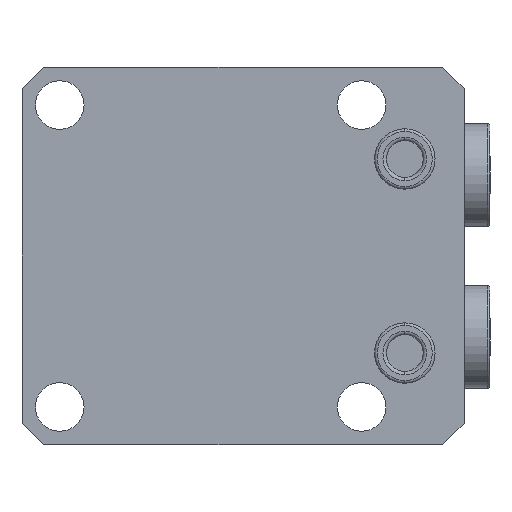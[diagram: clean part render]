
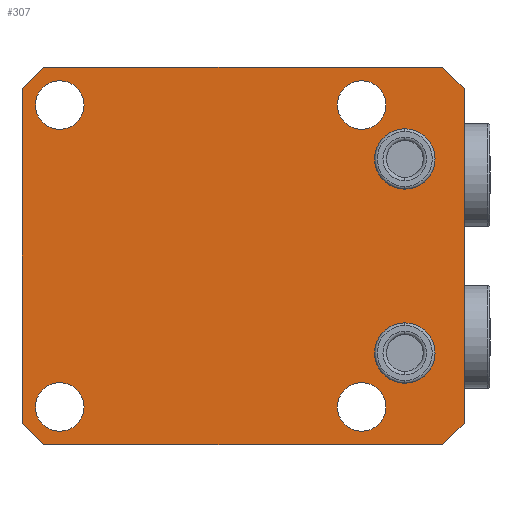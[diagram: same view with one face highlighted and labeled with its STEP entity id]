
A CAD part, front view. The second image highlights one B-rep face of the part: STEP entity #307.
In plain terms, the highlighted planar face has unit normal (0, -1, 0).
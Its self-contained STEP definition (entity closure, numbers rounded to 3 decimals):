
#176=PLANE('',#2243);
#226=FACE_BOUND('',#588,.T.);
#227=FACE_BOUND('',#589,.T.);
#228=FACE_BOUND('',#590,.T.);
#229=FACE_BOUND('',#591,.T.);
#230=FACE_BOUND('',#592,.T.);
#231=FACE_BOUND('',#593,.T.);
#232=FACE_BOUND('',#594,.T.);
#307=ADVANCED_FACE('',(#226,#227,#228,#229,#230,#231,#232),#176,.F.);
#588=EDGE_LOOP('',(#949,#950,#951,#952,#953,#954,#955,#956));
#589=EDGE_LOOP('',(#957,#958));
#590=EDGE_LOOP('',(#959,#960));
#591=EDGE_LOOP('',(#961,#962));
#592=EDGE_LOOP('',(#963,#964));
#593=EDGE_LOOP('',(#965,#966));
#594=EDGE_LOOP('',(#967,#968));
#752=CIRCLE('',#2214,4.5);
#754=CIRCLE('',#2217,4.5);
#756=CIRCLE('',#2220,4.5);
#758=CIRCLE('',#2223,4.5);
#762=CIRCLE('',#2229,5.6);
#764=CIRCLE('',#2233,5.6);
#766=CIRCLE('',#2236,5.6);
#767=CIRCLE('',#2238,4.5);
#768=CIRCLE('',#2239,4.5);
#769=CIRCLE('',#2240,4.5);
#770=CIRCLE('',#2241,4.5);
#771=CIRCLE('',#2242,5.6);
#949=ORIENTED_EDGE('',*,*,#1708,.F.);
#950=ORIENTED_EDGE('',*,*,#1709,.T.);
#951=ORIENTED_EDGE('',*,*,#1710,.F.);
#952=ORIENTED_EDGE('',*,*,#1711,.T.);
#953=ORIENTED_EDGE('',*,*,#1629,.F.);
#954=ORIENTED_EDGE('',*,*,#1712,.T.);
#955=ORIENTED_EDGE('',*,*,#1713,.F.);
#956=ORIENTED_EDGE('',*,*,#1714,.T.);
#957=ORIENTED_EDGE('',*,*,#1679,.F.);
#958=ORIENTED_EDGE('',*,*,#1715,.F.);
#959=ORIENTED_EDGE('',*,*,#1675,.F.);
#960=ORIENTED_EDGE('',*,*,#1716,.F.);
#961=ORIENTED_EDGE('',*,*,#1671,.F.);
#962=ORIENTED_EDGE('',*,*,#1717,.F.);
#963=ORIENTED_EDGE('',*,*,#1667,.F.);
#964=ORIENTED_EDGE('',*,*,#1718,.F.);
#965=ORIENTED_EDGE('',*,*,#1719,.F.);
#966=ORIENTED_EDGE('',*,*,#1689,.F.);
#967=ORIENTED_EDGE('',*,*,#1704,.T.);
#968=ORIENTED_EDGE('',*,*,#1707,.T.);
#1439=VERTEX_POINT('',#3103);
#1440=VERTEX_POINT('',#3105);
#1469=VERTEX_POINT('',#3182);
#1470=VERTEX_POINT('',#3183);
#1473=VERTEX_POINT('',#3191);
#1474=VERTEX_POINT('',#3192);
#1477=VERTEX_POINT('',#3200);
#1478=VERTEX_POINT('',#3201);
#1481=VERTEX_POINT('',#3209);
#1482=VERTEX_POINT('',#3210);
#1489=VERTEX_POINT('',#3233);
#1490=VERTEX_POINT('',#3235);
#1503=VERTEX_POINT('',#3296);
#1504=VERTEX_POINT('',#3298);
#1505=VERTEX_POINT('',#3305);
#1506=VERTEX_POINT('',#3306);
#1507=VERTEX_POINT('',#3308);
#1508=VERTEX_POINT('',#3310);
#1509=VERTEX_POINT('',#3313);
#1510=VERTEX_POINT('',#3315);
#1629=EDGE_CURVE('',#1439,#1440,#1911,.T.);
#1667=EDGE_CURVE('',#1469,#1470,#752,.T.);
#1671=EDGE_CURVE('',#1473,#1474,#754,.T.);
#1675=EDGE_CURVE('',#1477,#1478,#756,.T.);
#1679=EDGE_CURVE('',#1481,#1482,#758,.T.);
#1689=EDGE_CURVE('',#1489,#1490,#762,.T.);
#1704=EDGE_CURVE('',#1504,#1503,#764,.T.);
#1707=EDGE_CURVE('',#1503,#1504,#766,.T.);
#1708=EDGE_CURVE('',#1505,#1506,#1935,.T.);
#1709=EDGE_CURVE('',#1505,#1507,#1936,.T.);
#1710=EDGE_CURVE('',#1508,#1507,#1937,.T.);
#1711=EDGE_CURVE('',#1508,#1440,#1938,.T.);
#1712=EDGE_CURVE('',#1439,#1509,#1939,.T.);
#1713=EDGE_CURVE('',#1510,#1509,#1940,.T.);
#1714=EDGE_CURVE('',#1510,#1506,#1941,.T.);
#1715=EDGE_CURVE('',#1482,#1481,#767,.T.);
#1716=EDGE_CURVE('',#1478,#1477,#768,.T.);
#1717=EDGE_CURVE('',#1474,#1473,#769,.T.);
#1718=EDGE_CURVE('',#1470,#1469,#770,.T.);
#1719=EDGE_CURVE('',#1490,#1489,#771,.T.);
#1911=LINE('',#3104,#2036);
#1935=LINE('',#3304,#2060);
#1936=LINE('',#3307,#2061);
#1937=LINE('',#3309,#2062);
#1938=LINE('',#3311,#2063);
#1939=LINE('',#3312,#2064);
#1940=LINE('',#3314,#2065);
#1941=LINE('',#3316,#2066);
#2036=VECTOR('',#2455,1.);
#2060=VECTOR('',#2607,1.);
#2061=VECTOR('',#2608,1.);
#2062=VECTOR('',#2609,1.);
#2063=VECTOR('',#2610,1.);
#2064=VECTOR('',#2611,1.);
#2065=VECTOR('',#2612,1.);
#2066=VECTOR('',#2613,1.);
#2214=AXIS2_PLACEMENT_3D('',#3181,#2543,#2544);
#2217=AXIS2_PLACEMENT_3D('',#3190,#2551,#2552);
#2220=AXIS2_PLACEMENT_3D('',#3199,#2559,#2560);
#2223=AXIS2_PLACEMENT_3D('',#3208,#2567,#2568);
#2229=AXIS2_PLACEMENT_3D('',#3234,#2584,#2585);
#2233=AXIS2_PLACEMENT_3D('',#3297,#2596,#2597);
#2236=AXIS2_PLACEMENT_3D('',#3302,#2603,#2604);
#2238=AXIS2_PLACEMENT_3D('',#3317,#2614,#2615);
#2239=AXIS2_PLACEMENT_3D('',#3318,#2616,#2617);
#2240=AXIS2_PLACEMENT_3D('',#3319,#2618,#2619);
#2241=AXIS2_PLACEMENT_3D('',#3320,#2620,#2621);
#2242=AXIS2_PLACEMENT_3D('',#3321,#2622,#2623);
#2243=AXIS2_PLACEMENT_3D('',#3322,#2624,#2625);
#2455=DIRECTION('',(0.,0.,-1.));
#2543=DIRECTION('',(0.,-1.,0.));
#2544=DIRECTION('',(0.,0.,1.));
#2551=DIRECTION('',(0.,-1.,0.));
#2552=DIRECTION('',(0.,0.,1.));
#2559=DIRECTION('',(0.,-1.,0.));
#2560=DIRECTION('',(0.,0.,1.));
#2567=DIRECTION('',(0.,-1.,0.));
#2568=DIRECTION('',(0.,0.,1.));
#2584=DIRECTION('',(0.,-1.,0.));
#2585=DIRECTION('',(0.,0.,-1.));
#2596=DIRECTION('',(0.,1.,0.));
#2597=DIRECTION('',(0.,0.,1.));
#2603=DIRECTION('',(0.,1.,0.));
#2604=DIRECTION('',(0.,0.,1.));
#2607=DIRECTION('',(0.,0.,1.));
#2608=DIRECTION('',(0.707,0.,-0.707));
#2609=DIRECTION('',(-1.,0.,0.));
#2610=DIRECTION('',(0.707,0.,0.707));
#2611=DIRECTION('',(-0.707,0.,0.707));
#2612=DIRECTION('',(1.,0.,0.));
#2613=DIRECTION('',(-0.707,0.,-0.707));
#2614=DIRECTION('',(0.,-1.,0.));
#2615=DIRECTION('',(0.,0.,1.));
#2616=DIRECTION('',(0.,-1.,0.));
#2617=DIRECTION('',(0.,0.,1.));
#2618=DIRECTION('',(0.,-1.,0.));
#2619=DIRECTION('',(0.,0.,1.));
#2620=DIRECTION('',(0.,-1.,0.));
#2621=DIRECTION('',(0.,0.,1.));
#2622=DIRECTION('',(0.,-1.,0.));
#2623=DIRECTION('',(0.,0.,-1.));
#2624=DIRECTION('',(0.,1.,0.));
#2625=DIRECTION('',(0.,0.,1.));
#3103=CARTESIAN_POINT('',(47.,0.,31.));
#3104=CARTESIAN_POINT('',(47.,0.,-35.));
#3105=CARTESIAN_POINT('',(47.,0.,-31.));
#3181=CARTESIAN_POINT('',(-28.,0.,28.));
#3182=CARTESIAN_POINT('',(-28.,0.,32.5));
#3183=CARTESIAN_POINT('',(-28.,0.,23.5));
#3190=CARTESIAN_POINT('',(28.,0.,28.));
#3191=CARTESIAN_POINT('',(28.,0.,32.5));
#3192=CARTESIAN_POINT('',(28.,0.,23.5));
#3199=CARTESIAN_POINT('',(-28.,0.,-28.));
#3200=CARTESIAN_POINT('',(-28.,0.,-23.5));
#3201=CARTESIAN_POINT('',(-28.,0.,-32.5));
#3208=CARTESIAN_POINT('',(28.,0.,-28.));
#3209=CARTESIAN_POINT('',(28.,0.,-23.5));
#3210=CARTESIAN_POINT('',(28.,0.,-32.5));
#3233=CARTESIAN_POINT('',(36.,0.,-12.4));
#3234=CARTESIAN_POINT('',(36.,0.,-18.));
#3235=CARTESIAN_POINT('',(36.,0.,-23.6));
#3296=CARTESIAN_POINT('',(36.,0.,23.6));
#3297=CARTESIAN_POINT('',(36.,0.,18.));
#3298=CARTESIAN_POINT('',(36.,0.,12.4));
#3302=CARTESIAN_POINT('',(36.,0.,18.));
#3304=CARTESIAN_POINT('',(-35.,0.,-35.));
#3305=CARTESIAN_POINT('',(-35.,0.,-31.));
#3306=CARTESIAN_POINT('',(-35.,0.,31.));
#3307=CARTESIAN_POINT('',(-35.,0.,-31.));
#3308=CARTESIAN_POINT('',(-31.,0.,-35.));
#3309=CARTESIAN_POINT('',(-35.,0.,-35.));
#3310=CARTESIAN_POINT('',(43.,0.,-35.));
#3311=CARTESIAN_POINT('',(43.,0.,-35.));
#3312=CARTESIAN_POINT('',(47.,0.,31.));
#3313=CARTESIAN_POINT('',(43.,0.,35.));
#3314=CARTESIAN_POINT('',(-35.,0.,35.));
#3315=CARTESIAN_POINT('',(-31.,0.,35.));
#3316=CARTESIAN_POINT('',(-31.,0.,35.));
#3317=CARTESIAN_POINT('',(28.,0.,-28.));
#3318=CARTESIAN_POINT('',(-28.,0.,-28.));
#3319=CARTESIAN_POINT('',(28.,0.,28.));
#3320=CARTESIAN_POINT('',(-28.,0.,28.));
#3321=CARTESIAN_POINT('',(36.,0.,-18.));
#3322=CARTESIAN_POINT('',(-35.,0.,35.));
